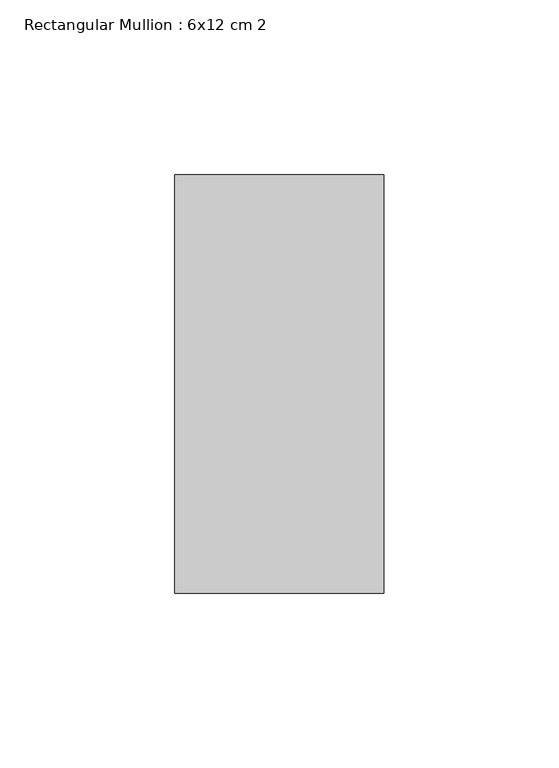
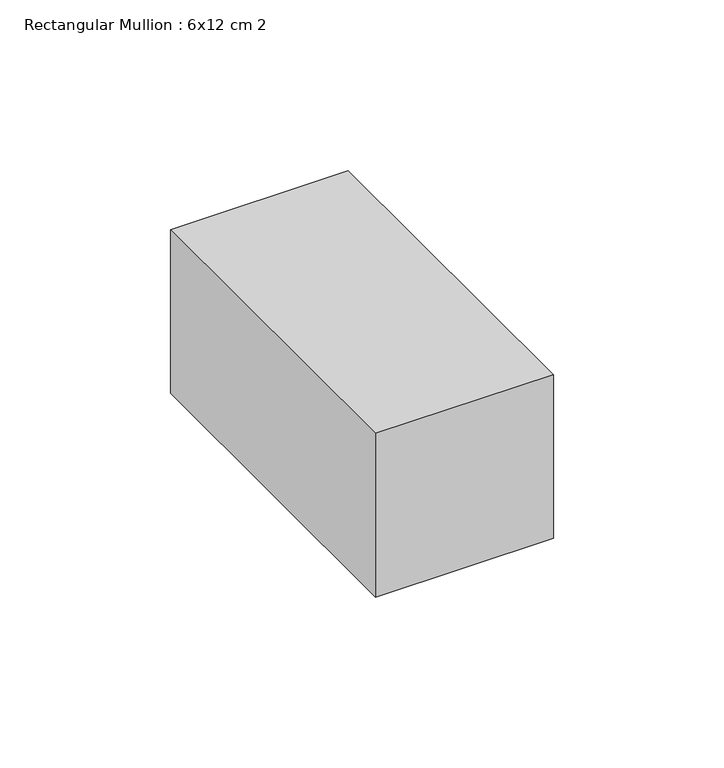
"""IFC4 building model written with IfcOpenShell, lengths in millimetres: member geometry, Rectangular Mullion : 6x12 cm 2."""

from ifc_helpers import new_model, si_unit, frame, origin, place, context, project, spatial, polyline, outline, extrude, source, transform, mapped, element, save


def rectangular_mullion_6x12_cm_2_892de901(model_context):
    return source(origin(), model_context, "Body", "SweptSolid", [
        extrude(outline(polyline([(0.0, 205.0), (0.0, 85.0), (-60.0, 85.0), (-60.0, 205.0), (0.0, 205.0)])), frame((0.0, 0.0, -58.4870241), z_axis=(0.0, 0.0, 1.0), x_axis=(1.0, 0.0, 0.0)), (0.0, 0.0, 1.0), 58.4870241),
    ])


if __name__ == "__main__":
    model = new_model("IFC4")
    model_context = context("Model", 3, world=origin())
    ifc_project = project(units=[si_unit("LENGTHUNIT", "METRE", prefix="MILLI")], contexts=[model_context])
    site = spatial("IfcSite", under=ifc_project)
    building = spatial("IfcBuilding", under=site)
    placement = place(None, origin())
    rectangular_mullion_6x12_cm_2_shape = rectangular_mullion_6x12_cm_2_892de901(model_context)
    element("IfcMember", 1, ObjectType="Rectangular Mullion : 6x12 cm 2", at=placement, inside=building, context=model_context, shape_type="MappedRepresentation", body=[
        mapped(rectangular_mullion_6x12_cm_2_shape, transform((0.0, 0.0, 0.0), x_axis=(1.0, 0.0, 0.0), y_axis=(0.0, 1.0, 0.0), z_axis=(0.0, 0.0, 1.0))),
    ])
    save(model, "model.ifc")
